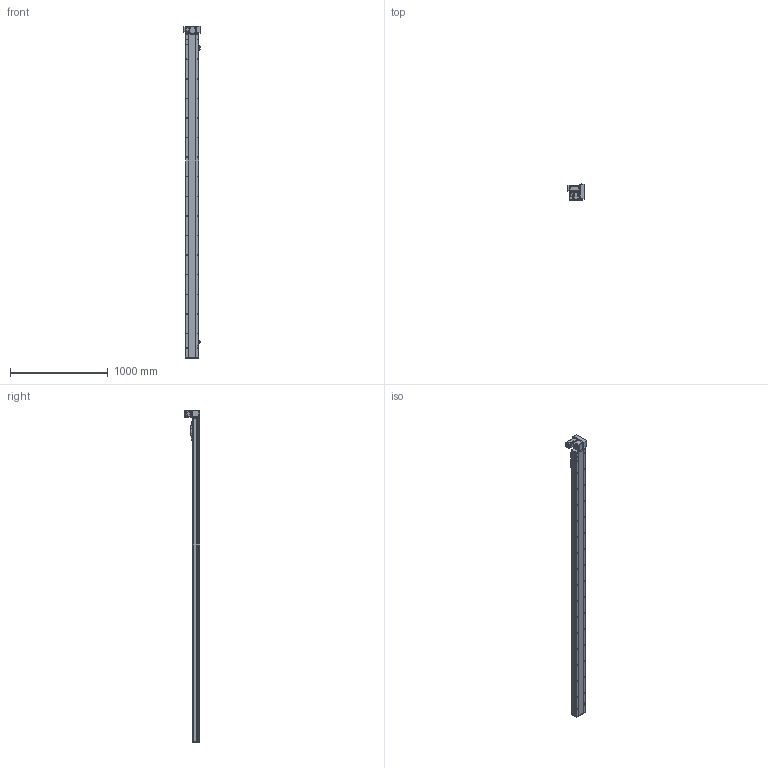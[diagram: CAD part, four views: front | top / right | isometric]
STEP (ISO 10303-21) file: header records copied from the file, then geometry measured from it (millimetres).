
FILE_DESCRIPTION (( 'STEP AP214' ), '1' );
FILE_NAME ('TPE14-L40-3000-RU-T40-C4.STEP', '2023-04-13T08:10:09', ( '' ), ( '' ), 'SwSTEP 2.0', 'SolidWorks 2020', '' );
FILE_SCHEMA (( 'AUTOMOTIVE_DESIGN' ));
Length unit declared in the file: millimetre
Products named in the file (10): 葩璃 詩湍75^TPE14-L40-RU-T40-C4; 葩璃 pm-t65-672^TPE14-L40-RU-T40-C4; 葩璃 TPE14-L-002 耜裔ZTMZ-135-04^TPE14-L40-RU-T40-C4; 葩璃 TPE14-L-007 々湍釱MZ-169x88^TPE14-L40-RU-T40-C4_YCB14; 葩璃 TPT14-L-009 萇儂啣^TPE14-L40-RU-T40-C4_400W; TPE14-L40-3000-RU-T40-C4; 葩璃 TPE14 賑雄殤^TPE14-L40-RU-T40-C4; 葩璃 TPE14-L-001 菁釱MZ-135-01^TPE14-L40-RU-T40-C4; 葩璃 侂狟400W^TPE14-L40-RU-T40-C4; hexagon head bolts-full thread gb_GB_FASTENER_BOLT_STBAB A M5X16-N
Assembly tree (12 placements, depth 2):
  TPE14-L40-3000-RU-T40-C4
    葩璃 TPE14-L-001 菁釱MZ-135-01^TPE14-L40-RU-T40-C4
    葩璃 TPE14-L-002 耜裔ZTMZ-135-04^TPE14-L40-RU-T40-C4  x2
    葩璃 詩湍75^TPE14-L40-RU-T40-C4
    葩璃 TPE14-L-007 々湍釱MZ-169x88^TPE14-L40-RU-T40-C4_YCB14
    葩璃 TPT14-L-009 萇儂啣^TPE14-L40-RU-T40-C4_400W
    葩璃 TPE14 賑雄殤^TPE14-L40-RU-T40-C4
    葩璃 pm-t65-672^TPE14-L40-RU-T40-C4  x3
    葩璃 侂狟400W^TPE14-L40-RU-T40-C4
    hexagon head bolts-full thread gb_GB_FASTENER_BOLT_STBAB A M5X16-N
Bounding box: 172.5 x 160.85 x 3390.5 mm (x, y, z)
Volume: 16655228.5 mm3; surface area: 3097341.1 mm2
Topology: 23 solids, 23 shells, 1492 faces, 3867 edges, 2430 vertices
Faces by surface type: plane 823, cylinder 461, cone 174, bspline 34
Entity records: 40115 total; most frequent: CARTESIAN_POINT 7694, DIRECTION 6408, ORIENTED_EDGE 6146, EDGE_CURVE 3073, AXIS2_PLACEMENT_3D 2198, VECTOR 2012, LINE 2012, VERTEX_POINT 1978
